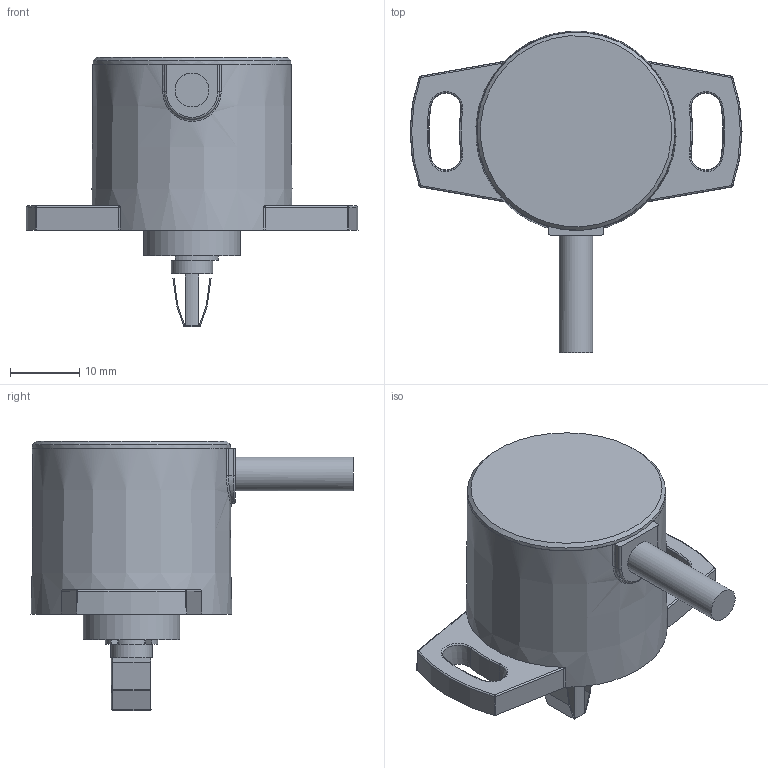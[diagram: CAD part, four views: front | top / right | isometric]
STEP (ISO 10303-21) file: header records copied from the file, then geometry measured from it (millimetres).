
FILE_DESCRIPTION(/* description */ ('Unknown','CAx-IF Rec.Pracs.---Representation and Presentation of Product Manufacturing Information (PMI)---4.0---2014-10-13','CAx-IF Rec.Pracs.---3D Tessellated Geometry---0.4---2014-09-14','2;1'),/* implementation_level */ '2;1');
FILE_NAME(/* name */ 'ASM_1_2023-EAM280_11144953 SEM-ST350-PULL-PUSH',/* time_stamp */ '2023-11-27T11:54:25+01:00',/* author */ ('Unknown'),/* organization */ ('Baumer'),/* preprocessor_version */ 'ST-DEVELOPER v16.7',/* originating_system */ 'Solid Edge',/* authorisation */ 'Unknown');
FILE_SCHEMA (('AP242_MANAGED_MODEL_BASED_3D_ENGINEERING_MIM_LF { 1 0 10303 442 1 1 4 }'));
Length unit declared in the file: millimetre
Products named in the file (1): Parte1
Bounding box: 48 x 46.56 x 39 mm (x, y, z)
Volume: 17856.8 mm3; surface area: 5582 mm2
Topology: 1 solids, 1 shells, 272 faces, 657 edges, 388 vertices
Faces by surface type: plane 74, cylinder 70, bspline 48, torus 41, cone 31, sphere 8
Full cylindrical faces by diameter (mm): 4.9 x2, 6 x2, 10 x1, 14 x1, 28.65 x1
Entity records: 10133 total; most frequent: CARTESIAN_POINT 2355, ORIENTED_EDGE 1240, DIRECTION 1193, EDGE_CURVE 620, AXIS2_PLACEMENT_3D 500, VERTEX_POINT 378, FACE_BOUND 306, EDGE_LOOP 305
